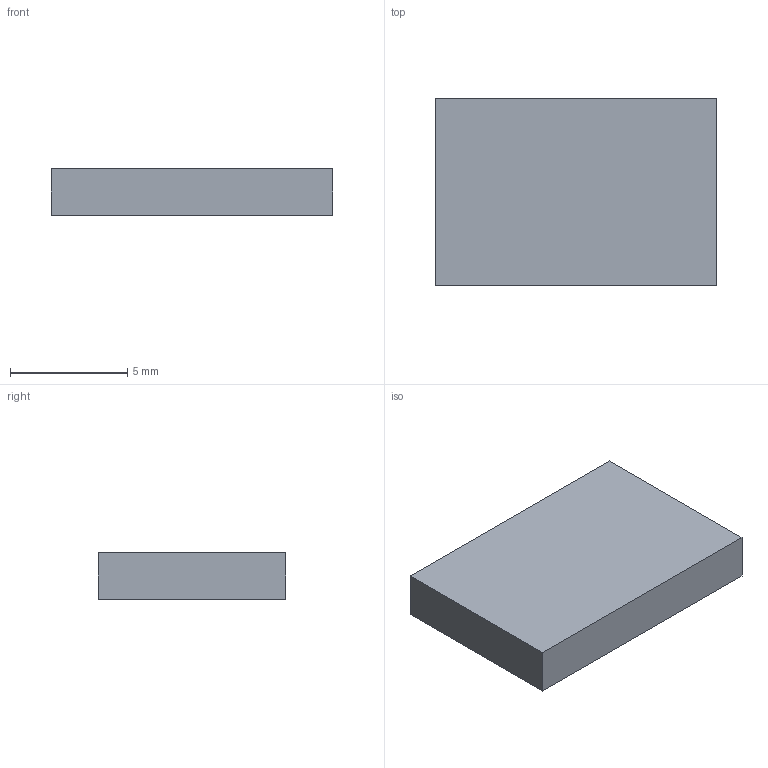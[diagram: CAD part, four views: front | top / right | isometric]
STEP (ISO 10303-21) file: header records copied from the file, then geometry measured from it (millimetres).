
FILE_DESCRIPTION(('Open CASCADE Model'),'2;1');
FILE_NAME('Open CASCADE Shape Model','2026-11-10T18:04:08',('Author'),( 'Open CASCADE'),'Open CASCADE STEP processor 7.9','Open CASCADE 7.9' ,'Unknown');
FILE_SCHEMA(('AUTOMOTIVE_DESIGN { 1 0 10303 214 1 1 1 1 }'));
Length unit declared in the file: millimetre
Products named in the file (1): Open CASCADE STEP translator 7.9 16
Bounding box: 12 x 8 x 2 mm (x, y, z)
Volume: 192 mm3; surface area: 272 mm2
Topology: 1 solids, 1 shells, 6 faces, 12 edges, 8 vertices
Faces by surface type: plane 6
Entity records: 322 total; most frequent: CARTESIAN_POINT 51, DIRECTION 50, LINE 36, VECTOR 36, ORIENTED_EDGE 24, PCURVE 24, DEFINITIONAL_REPRESENTATION 24, EDGE_CURVE 12
